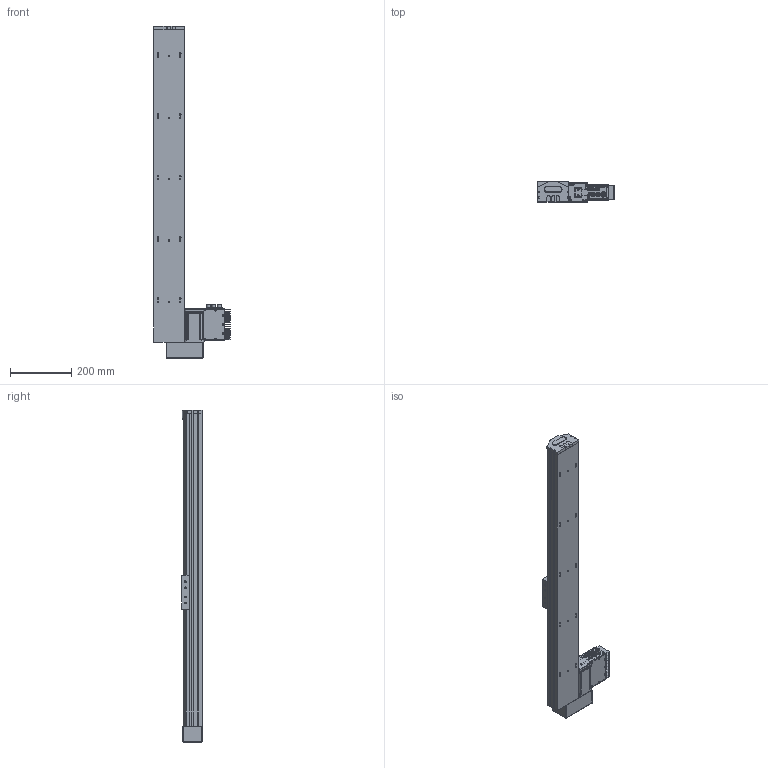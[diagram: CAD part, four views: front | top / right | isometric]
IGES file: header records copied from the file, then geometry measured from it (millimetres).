
Start section: SolidWorks IGES file using analytic representation for surfaces
Global section: file name: C:\Documents and Settings\1EDPI\Mes documents\yanize\S 10 TSH BR\S 10 TSH BR S800.IGS; native system: SolidWorks 2010; preprocessor: SolidWorks 2010; author: 1EDPI; date: 120904.143940; units: millimetre
Bounding box: 249.17 x 66.85 x 1082 mm (x, y, z)
Surface area: 792994.7 mm2 (no closed solid volume)
Topology: 0 solids, 0 shells, 1987 faces, 26836 edges, 26804 vertices
Faces by surface type: revolution 1057, bspline 930
